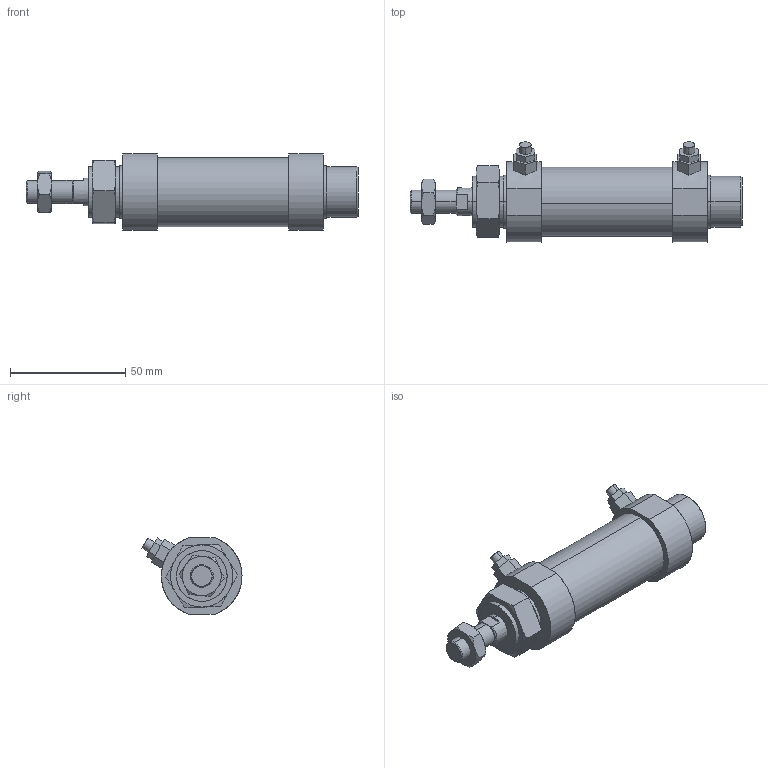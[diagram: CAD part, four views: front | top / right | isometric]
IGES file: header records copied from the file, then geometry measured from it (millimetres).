
Start section: SolidWorks IGES file using analytic representation for surfaces
Global section: file name: C:\Users\Toshiba\Desktop\JG2-25-25-N.IGS; native system: SolidWorks 2014; preprocessor: SolidWorks 2014; author: Toshiba; date: 160419.084836; units: millimetre
Bounding box: 144 x 43.43 x 33 mm (x, y, z)
Surface area: 21102.8 mm2 (no closed solid volume)
Topology: 0 solids, 0 shells, 137 faces, 2188 edges, 2184 vertices
Faces by surface type: bspline 93, revolution 44
